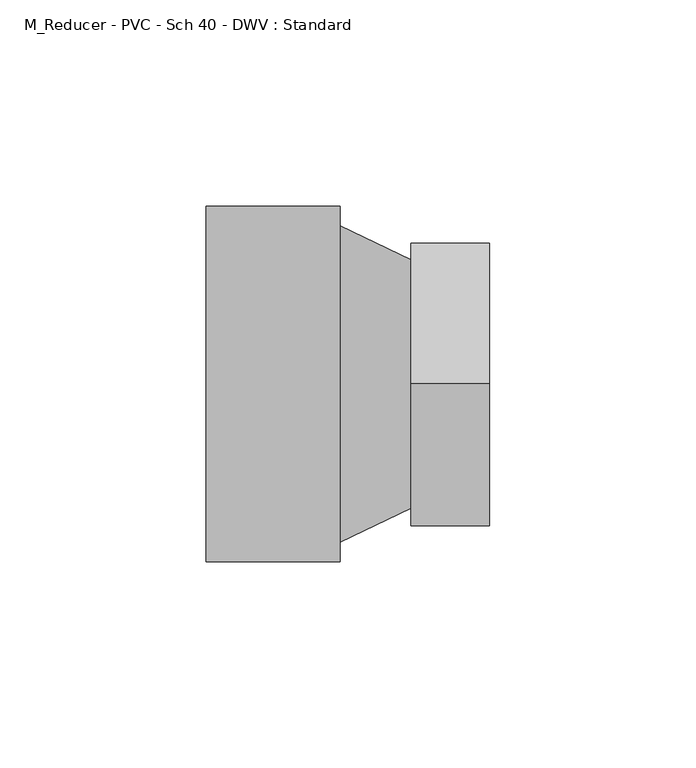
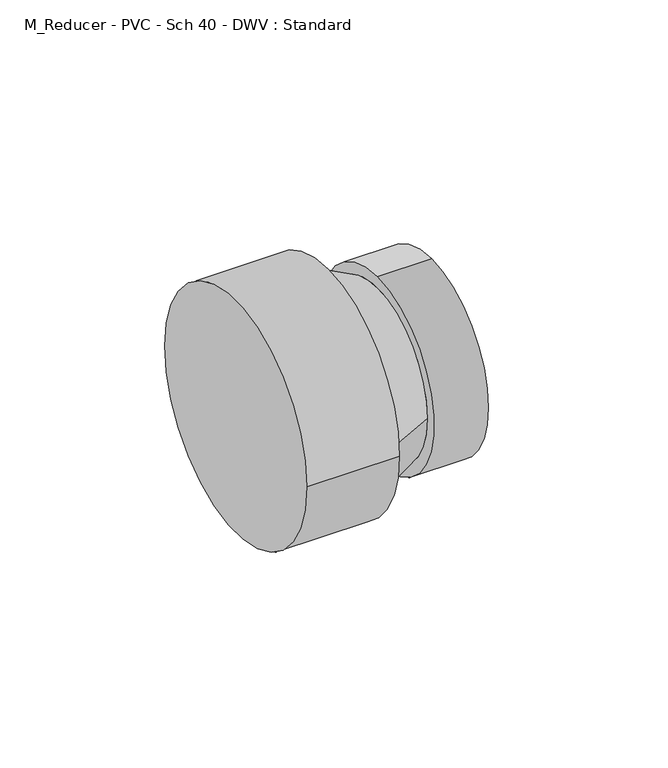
"""IFC4 building model written with IfcOpenShell, lengths in millimetres: pipe fitting geometry, M_Reducer - PVC - Sch 40 - DWV : Standard."""

from ifc_helpers import new_model, si_unit, frame, origin, place, context, project, spatial, polyline, circle_curve, source, transform, mapped, element, save
from ifc_brep_helpers import plane_surface, cylinder_surface, revolved_surface, advanced_brep


def m_reducer_pvc_sch_40_dwv_standard_84eef19e(model_context):
    return source(origin(), model_context, "Body", "AdvancedBrep", [
        advanced_brep(
        [(0.0, 43.0871094, 0.0), (0.0, -43.0871094, 0.0), (32.5, 43.0871094, 0.0), (32.5, -43.0871094, 0.0), (32.5, -38.3640625, 0.0), (32.5, 38.3640625, 0.0), (49.6960938, 30.1625, 0.0), (49.6960938, -30.1625, 0.0), (49.6960938, 0.0, 34.3154), (49.6960938, 0.0, -34.3154), (68.7460938, 0.0, 34.3154), (68.7460938, 0.0, -34.3154)],
        [
            (0, 1, circle_curve(frame((0.0, 0.0, 0.0), z_axis=(-1.0, 0.0, 0.0), x_axis=(0.0, -1.0, 0.0)), 43.0871094)),
            (1, 0, circle_curve(frame((0.0, 0.0, 0.0), z_axis=(-1.0, 0.0, 0.0), x_axis=(0.0, -1.0, 0.0)), 43.0871094)),
            (2, 3, circle_curve(frame((32.5, 0.0, 0.0), z_axis=(1.0, 0.0, 0.0), x_axis=(0.0, -1.0, 0.0)), 43.0871094)),
            (3, 2, circle_curve(frame((32.5, 0.0, 0.0), z_axis=(1.0, 0.0, 0.0), x_axis=(0.0, -1.0, 0.0)), 43.0871094)),
            (4, 5, circle_curve(frame((32.5, 0.0, 0.0), z_axis=(-1.0, 0.0, 0.0), x_axis=(0.0, -1.0, 0.0)), 38.3640625)),
            (5, 4, circle_curve(frame((32.5, 0.0, 0.0), z_axis=(-1.0, 0.0, 0.0), x_axis=(0.0, 1.0, 0.0)), 38.3640625)),
            (1, 3),
            (2, 0),
            (5, 6),
            (6, 7, circle_curve(frame((49.6960938, 0.0, 0.0), z_axis=(-1.0, 0.0, 0.0), x_axis=(0.0, 1.0, 0.0)), 30.1625)),
            (7, 4),
            (7, 6, circle_curve(frame((49.6960938, 0.0, 0.0), z_axis=(-1.0, 0.0, 0.0), x_axis=(0.0, -1.0, 0.0)), 30.1625)),
            (8, 9, circle_curve(frame((49.6960938, 0.0, 0.0), z_axis=(-1.0, 0.0, 0.0), x_axis=(0.0, 0.0, -1.0)), 34.3154)),
            (9, 8, circle_curve(frame((49.6960938, 0.0, 0.0), z_axis=(-1.0, 0.0, 0.0), x_axis=(0.0, 0.0, -1.0)), 34.3154)),
            (10, 11, circle_curve(frame((68.7460938, 0.0, 0.0), z_axis=(1.0, 0.0, 0.0), x_axis=(0.0, 0.0, -1.0)), 34.3154)),
            (11, 10, circle_curve(frame((68.7460938, 0.0, 0.0), z_axis=(1.0, 0.0, 0.0), x_axis=(0.0, 0.0, -1.0)), 34.3154)),
            (9, 11),
            (10, 8),
        ],
        [
            plane_surface(frame((0.0, 0.0, 0.0), z_axis=(-1.0, 0.0, 0.0), x_axis=(0.0, 0.0, 1.0))),
            plane_surface(frame((32.5, 0.0, 0.0), z_axis=(1.0, 0.0, 0.0), x_axis=(0.0, 0.0, 1.0))),
            cylinder_surface(frame((0.0, 0.0, 0.0), z_axis=(-1.0, 0.0, 0.0), x_axis=(0.0, -1.0, 0.0)), 43.0871094),
            revolved_surface(polyline([(49.69609379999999, -30.162499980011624, 0.0), (32.5, -38.3640625, 0.0)]), (112.9373576, 0.0, 0.0), (-1.0, 0.0, 0.0)),
            revolved_surface(polyline([(49.69609379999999, 30.162499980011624, 0.0), (32.5, 38.3640625, 0.0)]), (112.9373576, 0.0, 0.0), (-1.0, 0.0, 0.0)),
            plane_surface(frame((49.6960938, 0.0, 0.0), z_axis=(-1.0, 0.0, 0.0), x_axis=(0.0, -1.0, 0.0))),
            plane_surface(frame((68.7460938, 0.0, 0.0), z_axis=(1.0, 0.0, 0.0), x_axis=(0.0, -1.0, 0.0))),
            cylinder_surface(frame((49.6960938, 0.0, 0.0), z_axis=(-1.0, 0.0, 0.0), x_axis=(0.0, 0.0, -1.0)), 34.3154),
        ],
        [
            (0, [[1, 2]]),
            (1, [[3, 4], [5, 6]]),
            (2, [[7, -3, 8, -2]]),
            (2, [[-8, -4, -7, -1]]),
            (3, [[-6, 9, 10, 11]]),
            (4, [[12, -9, -5, -11]]),
            (5, [[13, 14], [-12, -10]]),
            (6, [[15, 16]]),
            (7, [[17, -15, 18, -14]]),
            (7, [[-18, -16, -17, -13]]),
        ],
    ),
    ])


if __name__ == "__main__":
    model = new_model("IFC4")
    model_context = context("Model", 3, world=origin())
    ifc_project = project(units=[si_unit("LENGTHUNIT", "METRE", prefix="MILLI")], contexts=[model_context])
    site = spatial("IfcSite", under=ifc_project)
    building = spatial("IfcBuilding", under=site)
    placement = place(None, origin())
    m_reducer_pvc_sch_40_dwv_standard_shape = m_reducer_pvc_sch_40_dwv_standard_84eef19e(model_context)
    element("IfcPipeFitting", 1, ObjectType="M_Reducer - PVC - Sch 40 - DWV : Standard", at=placement, inside=building, context=model_context, shape_type="MappedRepresentation", body=[
        mapped(m_reducer_pvc_sch_40_dwv_standard_shape, transform((0.0, 0.0, 0.0), x_axis=(1.0, 0.0, 0.0), y_axis=(0.0, 1.0, 0.0), z_axis=(0.0, 0.0, 1.0))),
    ])
    save(model, "model.ifc")
